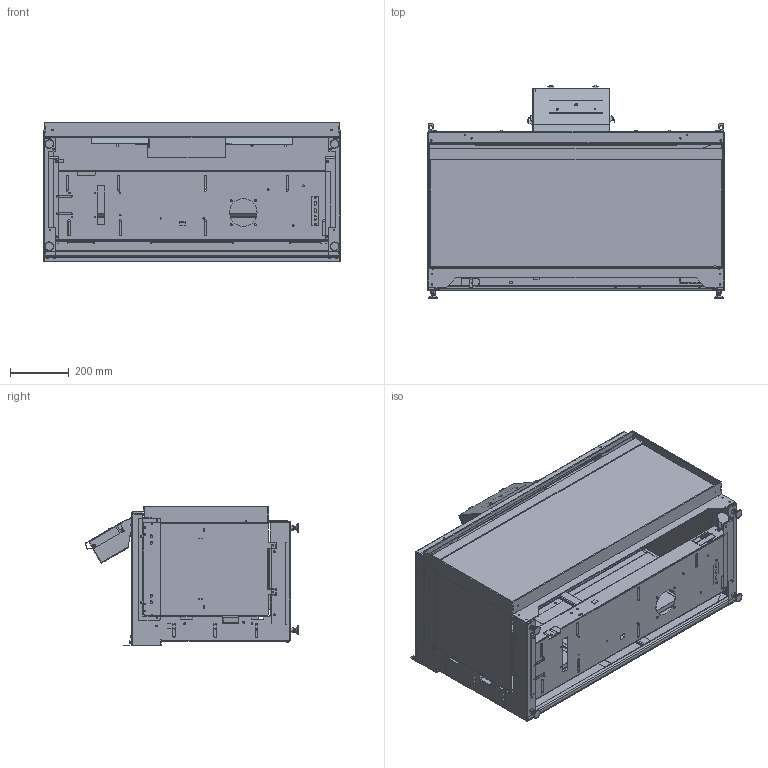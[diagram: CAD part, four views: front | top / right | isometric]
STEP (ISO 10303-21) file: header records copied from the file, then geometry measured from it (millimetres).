
FILE_DESCRIPTION (( 'STEP AP203' ), '1' );
FILE_NAME ('E-ONE 100 F GEN 2 MAIN ASSY.STEP', '2023-10-18T11:32:06', ( '' ), ( '' ), 'SwSTEP 2.0', 'SolidWorks 2020', '' );
FILE_SCHEMA (( 'CONFIG_CONTROL_DESIGN' ));
Products named in the file (1): E-ONE 100 F GEN 2 MAIN ASSY
Bounding box: 1011 x 728.49 x 477.1 mm (x, y, z)
Surface area: 6213783.4 mm2 (no closed solid volume)
Topology: 0 solids, 229 shells, 801 faces, 6864 edges, 6027 vertices
Faces by surface type: plane 537, cylinder 191, cone 35, torus 28, bspline 10
Entity records: 65762 total; most frequent: CARTESIAN_POINT 15441, DIRECTION 10721, ORIENTED_EDGE 7840, EDGE_CURVE 6864, VERTEX_POINT 6027, VECTOR 4203, LINE 4203, AXIS2_PLACEMENT_3D 3259
